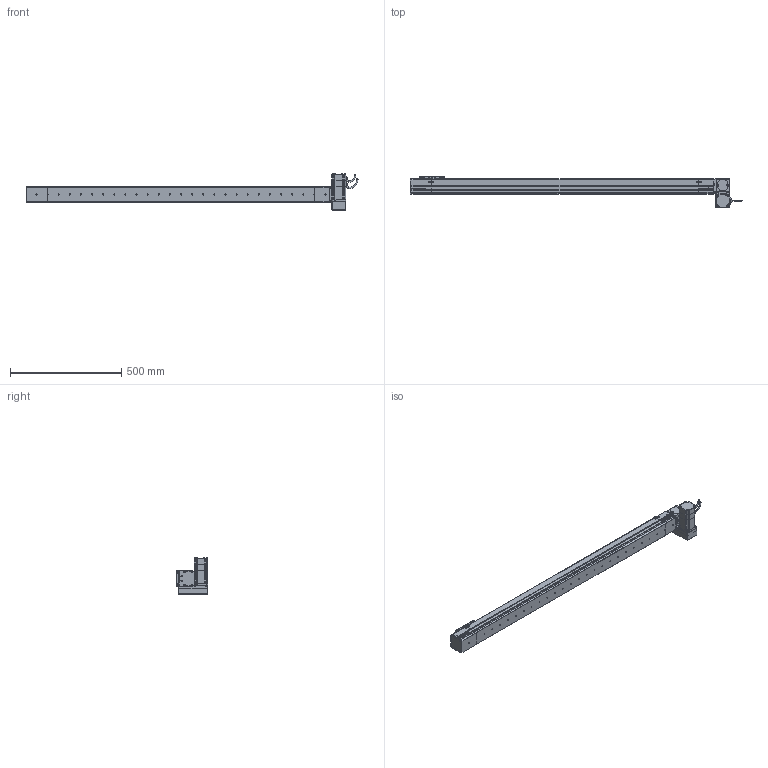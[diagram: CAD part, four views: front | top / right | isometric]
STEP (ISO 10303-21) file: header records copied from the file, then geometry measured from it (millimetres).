
FILE_DESCRIPTION (( 'STEP AP214' ), '1' );
FILE_NAME ('S07 CBN RU S1200.STEP', '2010-06-29T10:21:02', ( 'Conseil Régional Haute-Normandie' ), ( 'Conseil Régional Haute-Normandie' ), 'SwSTEP 2.0', 'SolidWorks 2010', '' );
FILE_SCHEMA (( 'AUTOMOTIVE_DESIGN' ));
Length unit declared in the file: millimetre
Products named in the file (31): 60BLDC90A-640_Default; P2 90A_Default; VisM3_Default; P1_Default; P3 90A_Default; Conecteur 60BLDC_Default; Axe 60BLDC_Default; Conecteur2 60BLDC_Default; P4_Default; Corp S07 S1200_Default; vis M5 L8_Default; support chariot_Default; Chariot S07_Default; vis M5 L15_Default; chariot_Default; plaque de serrage Tail_Default; Plaque de bout Tail_Default; Couvercle Tail_Default; Tail S07 Tail_Default; Couvercle S07 S1200_Default; Corp Tail_Default; Corp RU_Default; Head RU_Default; S07 CBN RU S1200; plaque de serrage RU_Default; Plaque de bout RU_Default; Couvercle RU_Default; Cache Support Moteur RU_Default; Support Moteur RU_Default; Rondelle de Serrage RU_Default
Assembly tree (71 placements, depth 4):
  S07 CBN RU S1200
    Chariot S07_Default
      vis M5 L8_Default  x8
      chariot_Default
      support chariot_Default
    Corp S07 S1200_Default
      Couvercle S07 S1200_Default
      Corp S07 S1200_Default
    Head RU_Default
      vis M5 L15_Default  x16
      Support Moteur RU_Default
      Plaque de bout RU_Default
      Rondelle de Serrage RU_Default  x3
      60BLDC90A-640_Default
        P4_Default
        Axe 60BLDC_Default
        VisM3_Default  x12
        Conecteur2 60BLDC_Default
        P2 90A_Default
        Conecteur 60BLDC_Default
        P3 90A_Default
        P1_Default
      plaque de serrage RU_Default
      Couvercle RU_Default
      Cache Support Moteur RU_Default
      Corp RU_Default
    Tail S07 Tail_Default
      vis M5 L15_Default  x6
      plaque de serrage Tail_Default
      Couvercle Tail_Default
      Corp Tail_Default
      Plaque de bout Tail_Default
Bounding box: 1493.2 x 142 x 162 mm (x, y, z)
Volume: 7041894.8 mm3; surface area: 845720.6 mm2
Topology: 108 solids, 108 shells, 3922 faces, 9650 edges, 6212 vertices
Faces by surface type: plane 2260, bspline 756, cylinder 695, torus 112, cone 95, sphere 4
Entity records: 154153 total; most frequent: CARTESIAN_POINT 79721, ORIENTED_EDGE 14820, DIRECTION 11123, EDGE_CURVE 7410, VERTEX_POINT 4897, VECTOR 4793, LINE 4793, EDGE_LOOP 3189
